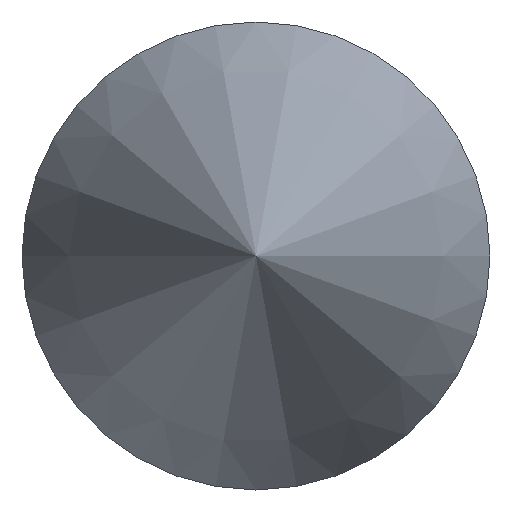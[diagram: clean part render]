
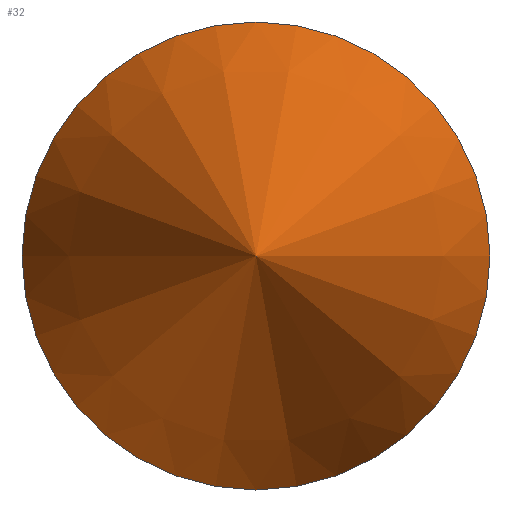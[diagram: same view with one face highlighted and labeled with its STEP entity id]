
A CAD part, front view. The second image highlights one B-rep face of the part: STEP entity #32.
In plain terms, the highlighted conical face has half-angle 22.5 degrees and reference radius 2.25 mm.
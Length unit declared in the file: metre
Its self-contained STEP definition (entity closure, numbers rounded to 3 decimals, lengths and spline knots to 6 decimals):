
#32 = ADVANCED_FACE( '', ( #63, #64 ), #65, .T. );
#63 = FACE_BOUND( '', #93, .T. );
#64 = FACE_OUTER_BOUND( '', #94, .T. );
#65 = CONICAL_SURFACE( '', #95, 0.00225, 0.393 );
#93 = VERTEX_LOOP( '', #119 );
#94 = EDGE_LOOP( '', ( #120 ) );
#95 = AXIS2_PLACEMENT_3D( '', #121, #122, #123 );
#119 = VERTEX_POINT( '', #151 );
#120 = ORIENTED_EDGE( '', *, *, #148, .T. );
#121 = CARTESIAN_POINT( '', ( 0., -0.002441, 0. ) );
#122 = DIRECTION( '', ( 0., 1., 0. ) );
#123 = DIRECTION( '', ( -1., 0., 0. ) );
#148 = EDGE_CURVE( '', #160, #160, #161, .T. );
#151 = CARTESIAN_POINT( '', ( 0., -0.007873, 0. ) );
#160 = VERTEX_POINT( '', #176 );
#161 = CIRCLE( '', #177, 0.00225 );
#176 = CARTESIAN_POINT( '', ( 0.00225, -0.002441, 0. ) );
#177 = AXIS2_PLACEMENT_3D( '', #191, #192, #193 );
#191 = CARTESIAN_POINT( '', ( 0., -0.002441, 0. ) );
#192 = DIRECTION( '', ( 0., -1., 0. ) );
#193 = DIRECTION( '', ( 1., 0., 0. ) );
